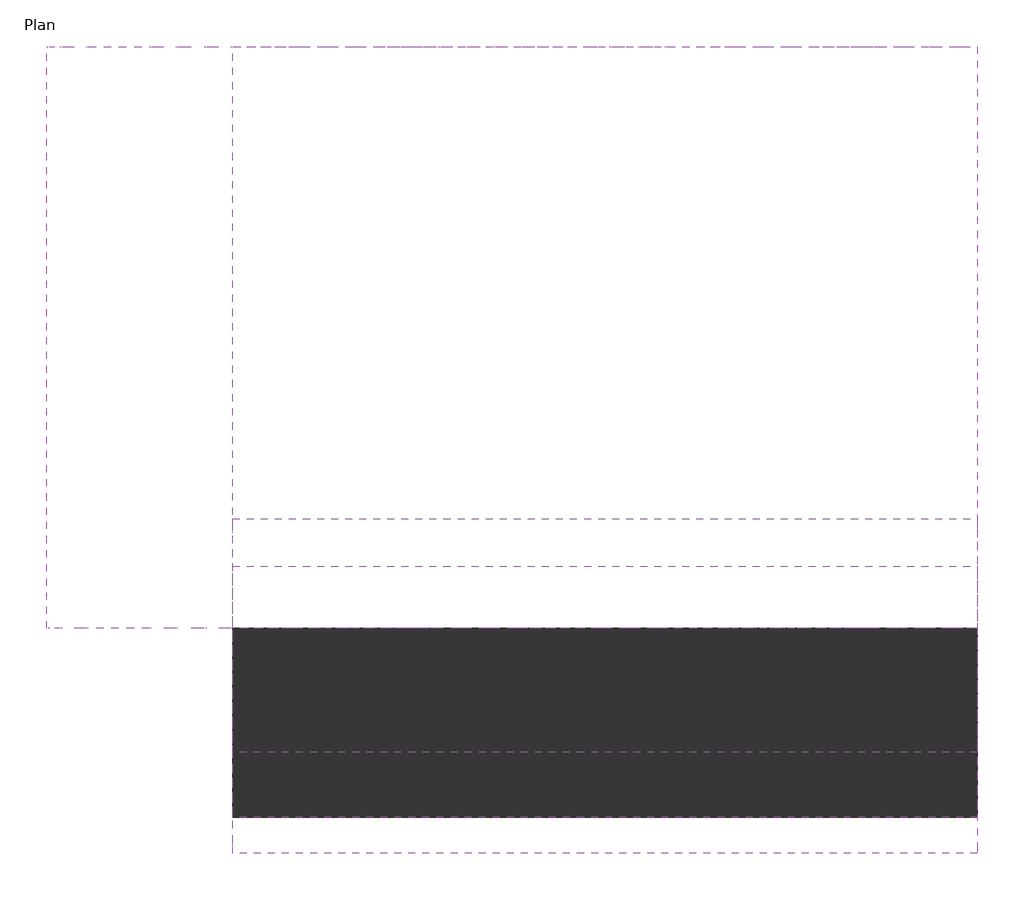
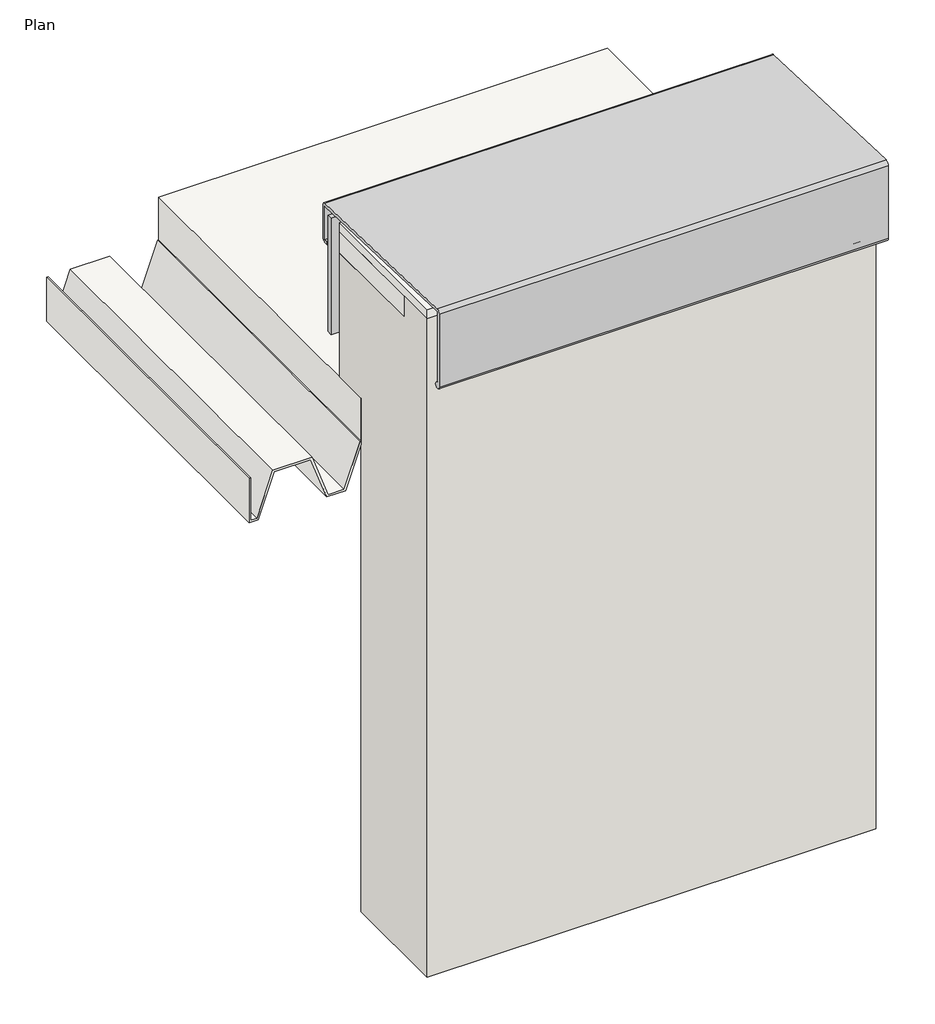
# One storey: 4 slabs, 1 proxy, 1 wall.
"""IFC4 building model written with IfcOpenShell, lengths in millimetres."""

from ifc_helpers import new_model, si_unit, frame, origin, place, context, project, spatial, polyline, outline, extrude, transform, mapped, element, save
from components import metal_cover_metal_cover_49b3120f, vapour_deck_vapour_deck_82465b2e

model = new_model("IFC4")

# Units and contexts
model_context = context("Model", 3, world=origin())
ifc_project = project(units=[si_unit("LENGTHUNIT", "METRE", prefix="MILLI")], contexts=[model_context])

# Site, building, storey
site = spatial("IfcSite", under=ifc_project)
building = spatial("IfcBuilding", under=site)
storey = spatial("IfcBuildingStorey", under=building, Name="Plan", Elevation=0.0)

# Proxy
placement = place(None, origin())
metal_cover_metal_cover_shape = metal_cover_metal_cover_49b3120f(model_context)
element("IfcBuildingElementProxy", 1, Name="Metal cover : Metal cover", ObjectType="Metal cover : Metal cover", at=placement, inside=storey, context=model_context, shape_type="MappedRepresentation", body=[
    mapped(metal_cover_metal_cover_shape, transform((0.0, 0.0, 0.0), x_axis=(1.0, 0.0, 0.0), y_axis=(0.0, 1.0, 0.0), z_axis=(0.0, 0.0, 1.0))),
])

# Slabs
element("IfcSlab", 2, ObjectType="AQUAPANEL - Cement Board Rooftop - non-flammable attic", at=placement, inside=storey, context=model_context, shape_type="SweptSolid", body=[
    extrude(outline(polyline([(18686.0136184, 15025.8863455), (18686.0136184, 14620.8863455), (17486.0136184, 14620.8863455), (17486.0136184, 15025.8863455), (18686.0136184, 15025.8863455)])), frame((0.0, 0.0, 2060.0), z_axis=(0.0, 0.0, 1.0), x_axis=(1.0, 0.0, 0.0)), (0.0, 0.0, 1.0), 26.0),
])
element("IfcSlab", 3, ObjectType="Floor", at=placement, inside=storey, context=model_context, shape_type="SweptSolid", body=[
    extrude(outline(polyline([(18686.0136184, 14925.8863455), (17486.0136184, 14925.8863455), (17486.0136184, 15863.0300162), (18686.0136184, 15863.0300162), (18686.0136184, 14925.8863455)])), frame((0.0, 0.0, 1530.0), z_axis=(0.0, 0.0, 1.0), x_axis=(1.0, 0.0, 0.0)), (0.0, 0.0, 1.0), 120.0),
])
element("IfcSlab", 4, ObjectType="Insulation", at=placement, inside=storey, context=model_context, shape_type="SweptSolid", body=[
    extrude(outline(polyline([(18686.0136184, 15025.8863455), (18686.0136184, 14725.8863455), (17486.0136184, 14725.8863455), (17486.0136184, 15025.8863455), (18686.0136184, 15025.8863455)])), frame((0.0, 0.0, 2000.0), z_axis=(0.0, 0.0, 1.0), x_axis=(1.0, 0.0, 0.0)), (0.0, 0.0, 1.0), 60.0),
])
vapour_deck_vapour_deck_shape = vapour_deck_vapour_deck_82465b2e(model_context)
element("IfcSlab", 5, ObjectType="Vapour deck : Vapour deck", at=placement, inside=storey, context=model_context, shape_type="MappedRepresentation", body=[
    mapped(vapour_deck_vapour_deck_shape, transform((-1730.2715606, -1.0600917, 1685.0), x_axis=(1.0, 0.0, 0.0), y_axis=(0.0, 1.0, 0.0), z_axis=(0.0, 0.0, 1.0))),
])

# Wall
element("IfcWall", 6, ObjectType="Wall structure", at=placement, inside=storey, context=model_context, shape_type="SweptSolid", body=[
    extrude(outline(polyline([(14620.8863455, 199.2863346), (14620.8863455, 2060.0), (14725.8863455, 2060.0), (14725.8863455, 2000.0), (15025.8863455, 2000.0), (15025.8863455, 1650.0), (14925.8863455, 1650.0), (14925.8863455, 199.2863346), (14620.8863455, 199.2863346)])), frame((17486.0136184, 0.0, 0.0), z_axis=(1.0, 0.0, 0.0), x_axis=(0.0, 1.0, 0.0)), (0.0, 0.0, 1.0), 1200.0),
])

save(model, "model.ifc")
